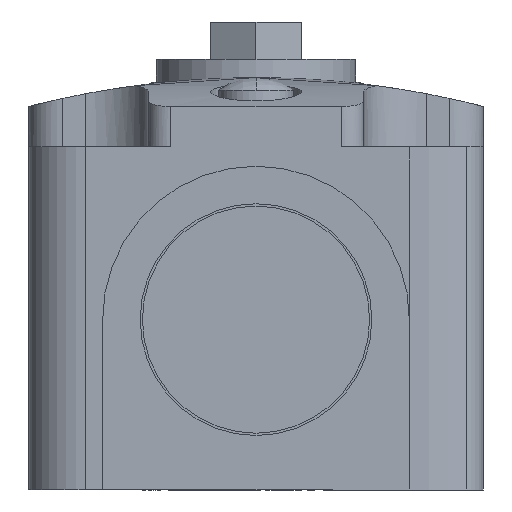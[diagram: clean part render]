
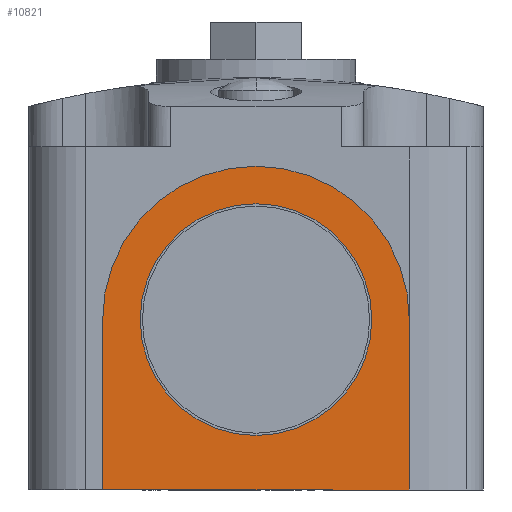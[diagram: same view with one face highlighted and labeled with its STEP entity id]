
A CAD part, front view. The second image highlights one B-rep face of the part: STEP entity #10821.
In plain terms, the highlighted planar face has unit normal (0, -1, 0).
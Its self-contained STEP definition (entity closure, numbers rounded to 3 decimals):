
#552 = CARTESIAN_POINT ( 'NONE',  ( 0., -36.2, -10.2 ) ) ;
#1200 = DIRECTION ( 'NONE',  ( 0., -1., 0. ) ) ;
#2859 = VERTEX_POINT ( 'NONE', #2915 ) ;
#2915 = CARTESIAN_POINT ( 'NONE',  ( -13.5, -36.2, 15. ) ) ;
#3343 = VERTEX_POINT ( 'NONE', #29716 ) ;
#3730 = AXIS2_PLACEMENT_3D ( 'NONE', #10970, #1200, #18583 ) ;
#3830 = ORIENTED_EDGE ( 'NONE', *, *, #26357, .F. ) ;
#4416 = VERTEX_POINT ( 'NONE', #6371 ) ;
#4762 = ORIENTED_EDGE ( 'NONE', *, *, #23617, .F. ) ;
#4912 = CARTESIAN_POINT ( 'NONE',  ( 0., -36.2, 0. ) ) ;
#4988 = CARTESIAN_POINT ( 'NONE',  ( -13.5, -36.2, -21.3 ) ) ;
#5255 = DIRECTION ( 'NONE',  ( 0., 1., 0. ) ) ;
#6371 = CARTESIAN_POINT ( 'NONE',  ( 13.5, -36.2, 0. ) ) ;
#6565 = AXIS2_PLACEMENT_3D ( 'NONE', #9591, #26980, #12091 ) ;
#7384 = DIRECTION ( 'NONE',  ( 0., 0., -1. ) ) ;
#7459 = DIRECTION ( 'NONE',  ( 0., 0., 1. ) ) ;
#8286 = DIRECTION ( 'NONE',  ( 0., -1., 0. ) ) ;
#8309 = CARTESIAN_POINT ( 'NONE',  ( 0., -36.2, -13.5 ) ) ;
#9591 = CARTESIAN_POINT ( 'NONE',  ( 0., -36.2, 0. ) ) ;
#10632 = LINE ( 'NONE', #14733, #17235 ) ;
#10658 = CIRCLE ( 'NONE', #6565, 13.5 ) ;
#10821 = ADVANCED_FACE ( 'NONE', ( #27499, #15838 ), #30925, .T. ) ;
#10970 = CARTESIAN_POINT ( 'NONE',  ( -13.5, -36.2, -21.3 ) ) ;
#12091 = DIRECTION ( 'NONE',  ( 0., 0., -1. ) ) ;
#12257 = AXIS2_PLACEMENT_3D ( 'NONE', #20088, #5255, #22583 ) ;
#12298 = ORIENTED_EDGE ( 'NONE', *, *, #18919, .T. ) ;
#12720 = ORIENTED_EDGE ( 'NONE', *, *, #26820, .F. ) ;
#13135 = VERTEX_POINT ( 'NONE', #552 ) ;
#14005 = ORIENTED_EDGE ( 'NONE', *, *, #28371, .F. ) ;
#14733 = CARTESIAN_POINT ( 'NONE',  ( -13.5, -36.2, 15. ) ) ;
#14866 = EDGE_CURVE ( 'NONE', #2859, #3343, #10632, .T. ) ;
#15838 = FACE_OUTER_BOUND ( 'NONE', #19572, .T. ) ;
#15960 = CIRCLE ( 'NONE', #18691, 10.2 ) ;
#16648 = CIRCLE ( 'NONE', #12257, 13.5 ) ;
#17235 = VECTOR ( 'NONE', #24827, 1000. ) ;
#18583 = DIRECTION ( 'NONE',  ( 0., 0., -1. ) ) ;
#18691 = AXIS2_PLACEMENT_3D ( 'NONE', #23135, #8286, #25663 ) ;
#18834 = DIRECTION ( 'NONE',  ( 0., 0., 1. ) ) ;
#18919 = EDGE_CURVE ( 'NONE', #4416, #3343, #28321, .T. ) ;
#19572 = EDGE_LOOP ( 'NONE', ( #14005, #12298, #27246, #3830, #4762 ) ) ;
#20088 = CARTESIAN_POINT ( 'NONE',  ( 0., -36.2, 0. ) ) ;
#21052 = CARTESIAN_POINT ( 'NONE',  ( 0., -36.2, 10.2 ) ) ;
#21476 = VERTEX_POINT ( 'NONE', #27845 ) ;
#21714 = VECTOR ( 'NONE', #18834, 1000. ) ;
#22241 = DIRECTION ( 'NONE',  ( 0., -1., 0. ) ) ;
#22583 = DIRECTION ( 'NONE',  ( 0., 0., -1. ) ) ;
#23135 = CARTESIAN_POINT ( 'NONE',  ( 0., -36.2, 0. ) ) ;
#23617 = EDGE_CURVE ( 'NONE', #29307, #21476, #10658, .T. ) ;
#24827 = DIRECTION ( 'NONE',  ( 1., 0., 0. ) ) ;
#25326 = LINE ( 'NONE', #4988, #31120 ) ;
#25663 = DIRECTION ( 'NONE',  ( 0., 0., -1. ) ) ;
#26041 = CIRCLE ( 'NONE', #26630, 10.2 ) ;
#26357 = EDGE_CURVE ( 'NONE', #21476, #2859, #25326, .T. ) ;
#26630 = AXIS2_PLACEMENT_3D ( 'NONE', #4912, #22241, #7384 ) ;
#26820 = EDGE_CURVE ( 'NONE', #29975, #13135, #15960, .T. ) ;
#26980 = DIRECTION ( 'NONE',  ( 0., 1., 0. ) ) ;
#27246 = ORIENTED_EDGE ( 'NONE', *, *, #14866, .F. ) ;
#27499 = FACE_BOUND ( 'NONE', #29702, .T. ) ;
#27845 = CARTESIAN_POINT ( 'NONE',  ( -13.5, -36.2, 0. ) ) ;
#28321 = LINE ( 'NONE', #28685, #21714 ) ;
#28371 = EDGE_CURVE ( 'NONE', #4416, #29307, #16648, .T. ) ;
#28685 = CARTESIAN_POINT ( 'NONE',  ( 13.5, -36.2, -21.3 ) ) ;
#28717 = ORIENTED_EDGE ( 'NONE', *, *, #28749, .F. ) ;
#28749 = EDGE_CURVE ( 'NONE', #13135, #29975, #26041, .T. ) ;
#29307 = VERTEX_POINT ( 'NONE', #8309 ) ;
#29702 = EDGE_LOOP ( 'NONE', ( #28717, #12720 ) ) ;
#29716 = CARTESIAN_POINT ( 'NONE',  ( 13.5, -36.2, 15. ) ) ;
#29975 = VERTEX_POINT ( 'NONE', #21052 ) ;
#30925 = PLANE ( 'NONE',  #3730 ) ;
#31120 = VECTOR ( 'NONE', #7459, 1000. ) ;
